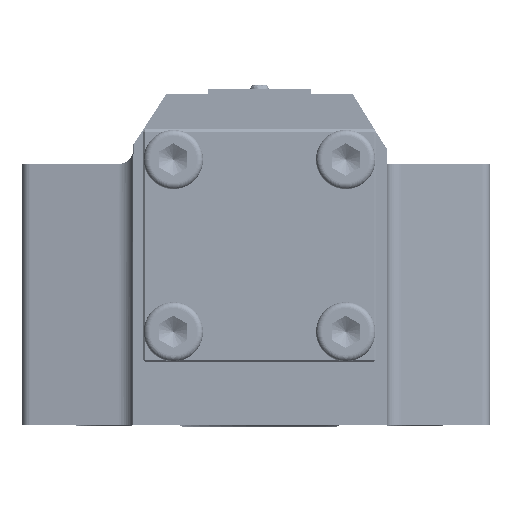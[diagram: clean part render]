
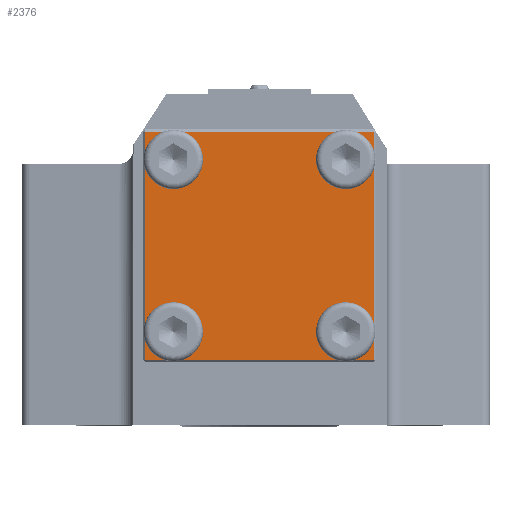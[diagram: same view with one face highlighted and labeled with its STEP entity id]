
A CAD part, left-side view. The second image highlights one B-rep face of the part: STEP entity #2376.
In plain terms, the highlighted planar face has unit normal (-1, 0, 0).
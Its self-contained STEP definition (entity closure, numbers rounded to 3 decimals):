
#2376=ADVANCED_FACE('',(#4305,#4306,#4307,#4308,#4309),#2642,.T.);
#2642=PLANE('',#9856);
#3487=LINE('',#52518,#4074);
#3488=LINE('',#52521,#4075);
#3489=LINE('',#52523,#4076);
#3490=LINE('',#52525,#4077);
#4074=VECTOR('',#11743,1.);
#4075=VECTOR('',#11744,1.);
#4076=VECTOR('',#11745,1.);
#4077=VECTOR('',#11746,1.);
#4305=FACE_BOUND('',#4901,.T.);
#4306=FACE_BOUND('',#4902,.T.);
#4307=FACE_BOUND('',#4903,.T.);
#4308=FACE_BOUND('',#4904,.T.);
#4309=FACE_BOUND('',#4905,.T.);
#4901=EDGE_LOOP('',(#7012,#7013,#7014,#7015));
#4902=EDGE_LOOP('',(#7016));
#4903=EDGE_LOOP('',(#7017));
#4904=EDGE_LOOP('',(#7018));
#4905=EDGE_LOOP('',(#7019));
#7012=ORIENTED_EDGE('',*,*,#8910,.T.);
#7013=ORIENTED_EDGE('',*,*,#8911,.T.);
#7014=ORIENTED_EDGE('',*,*,#8912,.T.);
#7015=ORIENTED_EDGE('',*,*,#8913,.T.);
#7016=ORIENTED_EDGE('',*,*,#8914,.T.);
#7017=ORIENTED_EDGE('',*,*,#8915,.T.);
#7018=ORIENTED_EDGE('',*,*,#8916,.T.);
#7019=ORIENTED_EDGE('',*,*,#8917,.T.);
#7841=VERTEX_POINT('',#52519);
#7842=VERTEX_POINT('',#52520);
#7843=VERTEX_POINT('',#52522);
#7844=VERTEX_POINT('',#52524);
#7845=VERTEX_POINT('',#52527);
#7846=VERTEX_POINT('',#52529);
#7847=VERTEX_POINT('',#52531);
#7848=VERTEX_POINT('',#52533);
#8910=EDGE_CURVE('',#7841,#7842,#3487,.T.);
#8911=EDGE_CURVE('',#7842,#7843,#3488,.T.);
#8912=EDGE_CURVE('',#7843,#7844,#3489,.T.);
#8913=EDGE_CURVE('',#7844,#7841,#3490,.T.);
#8914=EDGE_CURVE('',#7845,#7845,#9189,.T.);
#8915=EDGE_CURVE('',#7846,#7846,#9190,.T.);
#8916=EDGE_CURVE('',#7847,#7847,#9191,.T.);
#8917=EDGE_CURVE('',#7848,#7848,#9192,.T.);
#9189=CIRCLE('',#9852,5.);
#9190=CIRCLE('',#9853,5.);
#9191=CIRCLE('',#9854,5.);
#9192=CIRCLE('',#9855,5.);
#9852=AXIS2_PLACEMENT_3D('',#52526,#11747,#11748);
#9853=AXIS2_PLACEMENT_3D('',#52528,#11749,#11750);
#9854=AXIS2_PLACEMENT_3D('',#52530,#11751,#11752);
#9855=AXIS2_PLACEMENT_3D('',#52532,#11753,#11754);
#9856=AXIS2_PLACEMENT_3D('',#52534,#11755,#11756);
#11743=DIRECTION('',(0.,0.,1.));
#11744=DIRECTION('',(0.,1.,0.));
#11745=DIRECTION('',(0.,0.,-1.));
#11746=DIRECTION('',(0.,-1.,0.));
#11747=DIRECTION('',(1.,0.,0.));
#11748=DIRECTION('',(0.,0.,1.));
#11749=DIRECTION('',(1.,0.,0.));
#11750=DIRECTION('',(0.,0.,1.));
#11751=DIRECTION('',(1.,0.,0.));
#11752=DIRECTION('',(0.,0.,1.));
#11753=DIRECTION('',(1.,0.,0.));
#11754=DIRECTION('',(0.,0.,1.));
#11755=DIRECTION('',(-1.,0.,0.));
#11756=DIRECTION('',(0.,0.,-1.));
#52518=CARTESIAN_POINT('',(269.731,154.334,-12.46));
#52519=CARTESIAN_POINT('',(269.731,154.334,-36.96));
#52520=CARTESIAN_POINT('',(269.731,154.334,12.04));
#52521=CARTESIAN_POINT('',(269.731,142.31,12.04));
#52522=CARTESIAN_POINT('',(269.731,203.334,12.04));
#52523=CARTESIAN_POINT('',(269.731,203.334,-12.46));
#52524=CARTESIAN_POINT('',(269.731,203.334,-36.96));
#52525=CARTESIAN_POINT('',(269.731,142.31,-36.96));
#52526=CARTESIAN_POINT('',(269.731,197.334,-30.96));
#52527=CARTESIAN_POINT('',(269.731,197.334,-25.96));
#52528=CARTESIAN_POINT('',(269.731,160.334,-30.96));
#52529=CARTESIAN_POINT('',(269.731,160.334,-25.96));
#52530=CARTESIAN_POINT('',(269.731,197.334,6.04));
#52531=CARTESIAN_POINT('',(269.731,197.334,11.04));
#52532=CARTESIAN_POINT('',(269.731,160.334,6.04));
#52533=CARTESIAN_POINT('',(269.731,160.334,11.04));
#52534=CARTESIAN_POINT('',(269.731,142.31,-12.46));
